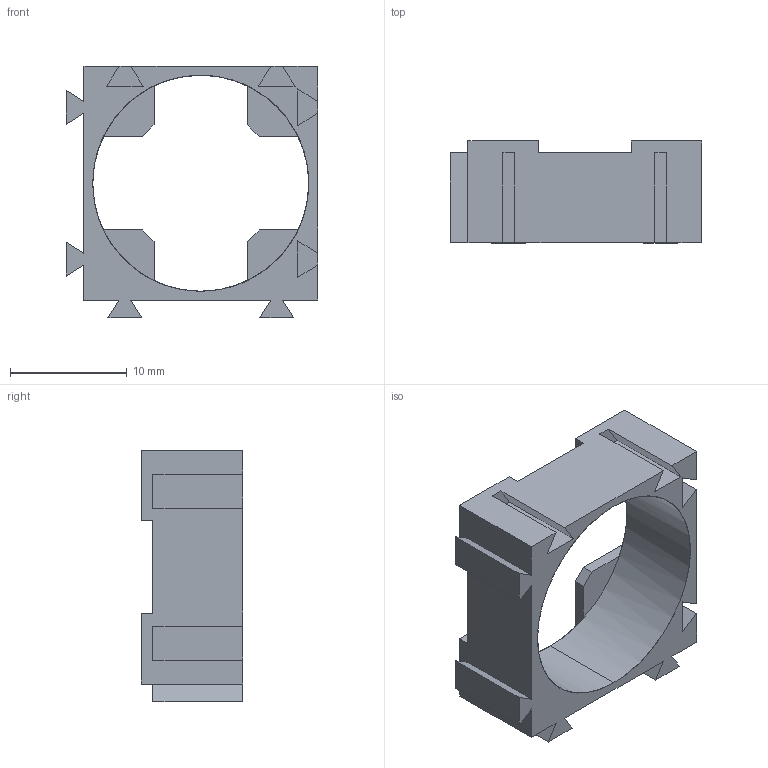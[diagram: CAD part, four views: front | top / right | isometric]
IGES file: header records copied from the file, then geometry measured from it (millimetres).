
Start section: SolidWorks IGES file using analytic representation for surfaces
Global section: file name: C:\Users\NCSTT\Documents\Socket_Baterai_Sel_20x12_Rev_1.IGS; native system: SolidWorks 2019; preprocessor: SolidWorks 2019; author: NCSTT; date: 190806.092526; units: millimetre
Bounding box: 21.5 x 8.7 x 21.5 mm (x, y, z)
Surface area: 1887.3 mm2 (no closed solid volume)
Topology: 0 solids, 0 shells, 63 faces, 424 edges, 424 vertices
Faces by surface type: bspline 61, revolution 2
